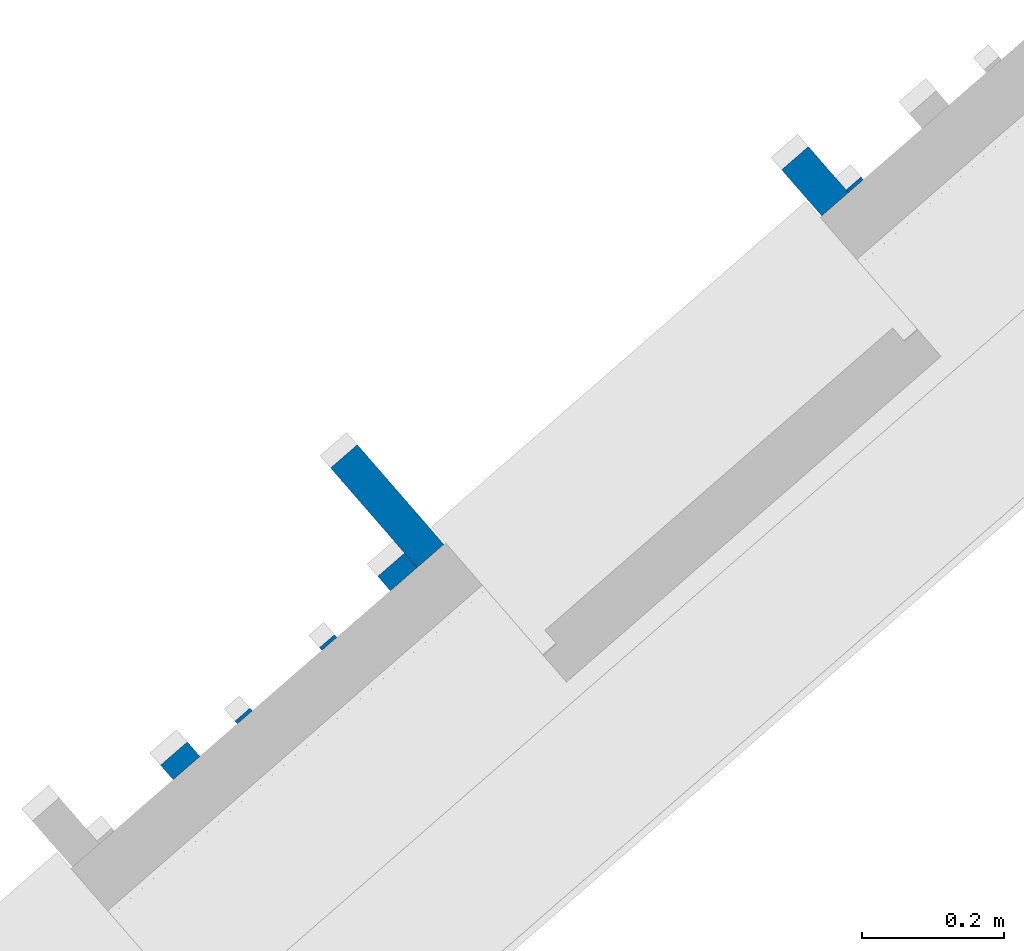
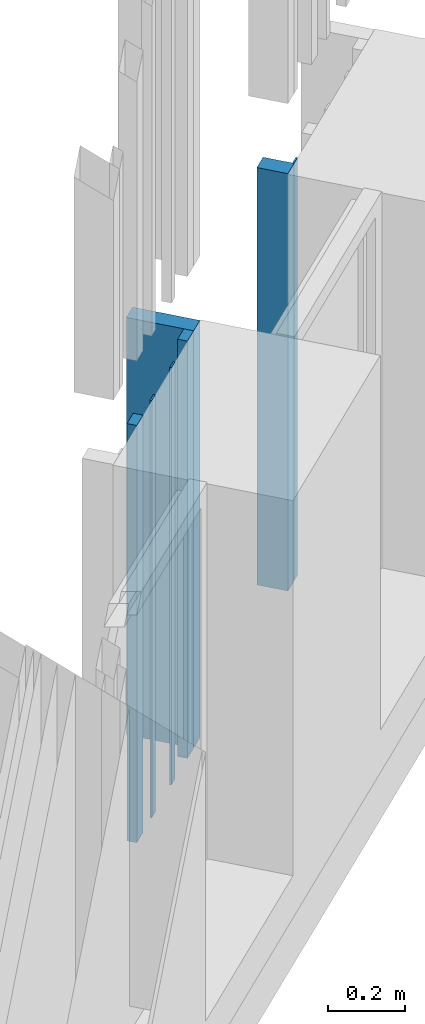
# One storey, part 242 of 390: 7 walls.
"""IFC2X3 building model written with IfcOpenShell, lengths in millimetres."""

from ifc_helpers import new_model, entity, si_unit, converted_unit, derived_unit, money_unit, direction, frame, origin_with_axes, place, context, subcontext, project, spatial, faceted_brep, material, type_object, element, save


model = new_model("IFC2X3")

# Units and contexts
model_context = context("Model", 3, precision=1e-05, world=origin_with_axes(), true_north=direction((0.0, 1.0)))
body_context = subcontext(model_context, "Body", "Model", "MODEL_VIEW")
ifc_project = project(units=[si_unit("LENGTHUNIT", "METRE", prefix="MILLI"), si_unit("AREAUNIT", "SQUARE_METRE"), si_unit("VOLUMEUNIT", "CUBIC_METRE"), converted_unit("PLANEANGLEUNIT", "DEGREE", entity("IfcPlaneAngleMeasure", 0.0174532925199), si_unit("PLANEANGLEUNIT", "RADIAN"), dimensions=[0, 0, 0, 0, 0, 0, 0]), si_unit("SOLIDANGLEUNIT", "STERADIAN"), money_unit("EUR"), converted_unit("TIMEUNIT", "Year", entity("IfcTimeMeasure", 31556926.0), si_unit("TIMEUNIT", "SECOND"), dimensions=[0, 0, 1, 0, 0, 0, 0]), si_unit("MASSUNIT", "GRAM", prefix="KILO"), si_unit("THERMODYNAMICTEMPERATUREUNIT", "DEGREE_CELSIUS"), si_unit("LUMINOUSINTENSITYUNIT", "LUMEN"), si_unit("ENERGYUNIT", "JOULE", prefix="MEGA"), derived_unit("THERMALCONDUCTANCEUNIT", [(si_unit("POWERUNIT", "WATT"), 1), (si_unit("LENGTHUNIT", "METRE"), -1), (si_unit("THERMODYNAMICTEMPERATUREUNIT", "KELVIN"), -1)]), derived_unit("SPECIFICHEATCAPACITYUNIT", [(si_unit("ENERGYUNIT", "JOULE"), 1), (si_unit("MASSUNIT", "GRAM", prefix="KILO"), -1), (si_unit("THERMODYNAMICTEMPERATUREUNIT", "KELVIN"), -1)]), derived_unit("MASSDENSITYUNIT", [(si_unit("MASSUNIT", "GRAM", prefix="KILO"), 1), (si_unit("VOLUMEUNIT", "CUBIC_METRE"), -1)])], contexts=[model_context])

# Site, building, storey
site_placement = place(None, origin_with_axes())
site = spatial("IfcSite", under=ifc_project, at=site_placement, Name="Site", CompositionType="ELEMENT")
building_placement = place(site_placement, origin_with_axes())
building = spatial("IfcBuilding", under=site, at=building_placement, Name="Building", CompositionType="ELEMENT")
storey_placement = place(building_placement, origin_with_axes())
storey = spatial("IfcBuildingStorey", under=building, at=storey_placement, Name="1 korrus", CompositionType="ELEMENT", Elevation=0.0)

# Walls
ifc_material = material(Name="Site specified")
wall_type = type_object("IfcWallType", Name="Puitfassaadi ribistik", PredefinedType="NOTDEFINED")
wall_1_placement = place(storey_placement, frame((143441.365928, 94683.0424022, 0.0), z_axis=(0.0, 0.0, 1.0), x_axis=(0.754709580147, 0.656059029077, 0.0)))
element("IfcWall", 1, at=wall_1_placement, inside=storey, type_object=wall_type, material=ifc_material, Name="Site specified", context=body_context, shape_type="Brep", body=[
    faceted_brep([(-14.0, 14.0, 1330.0), (-14.0, 8.98074044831, 1330.0), (14.0000000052, 8.98067413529, 1330.0), (14.0, 14.0, 1330.0), (-14.0, 14.0, 0.0), (-14.0, 8.97851596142, 0.0), (14.0, 8.97845256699, 0.0), (14.0, 14.0, 0.0)], [[[0, 1, 2, 3]], [[4, 5, 1, 0]], [[5, 6, 2, 1]], [[3, 2, 6, 7]], [[0, 3, 7, 4]], [[7, 6, 5, 4]]]),
])
wall_2_placement = place(storey_placement, frame((143232.641821, 94516.1764468, 0.0), z_axis=(0.0, 0.0, 1.0), x_axis=(0.754709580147, 0.656059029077, 0.0)))
element("IfcWall", 2, at=wall_2_placement, inside=storey, type_object=wall_type, material=ifc_material, Name="Site specified", context=body_context, shape_type="Brep", body=[
    faceted_brep([(-25.0, 25.0, 1330.0), (-25.0, -2.01860116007, 1330.0), (25.0000000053, -2.01871957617, 1330.0), (25.0, 25.0, 1330.0), (-25.0, 25.0, 0.0), (-25.0, -2.02085462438, 0.0), (25.0, -2.0209678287, 0.0), (25.0, 25.0, 0.0)], [[[0, 1, 2, 3]], [[4, 5, 1, 0]], [[5, 6, 2, 1]], [[3, 2, 6, 7]], [[0, 3, 7, 4]], [[7, 6, 5, 4]]]),
])
wall_3_placement = place(storey_placement, frame((143539.05391, 94782.5364126, 0.0), z_axis=(0.0, 0.0, 1.0), x_axis=(0.754709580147, 0.656059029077, 0.0)))
element("IfcWall", 3, at=wall_3_placement, inside=storey, type_object=wall_type, material=ifc_material, Name="Site specified", context=body_context, shape_type="Brep", body=[
    faceted_brep([(-25.0, 25.0, 1330.0), (-25.0, -2.01956269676, 1330.0), (25.0000000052, -2.01968111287, 1330.0), (25.0, 25.0, 1330.0), (-25.0, 25.0, 0.0), (-25.0, -2.02177384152, 0.0), (25.0, -2.02188704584, 0.0), (25.0, 25.0, 0.0)], [[[0, 1, 2, 3]], [[4, 5, 1, 0]], [[5, 6, 2, 1]], [[3, 2, 6, 7]], [[0, 3, 7, 4]], [[7, 6, 5, 4]]]),
])
wall_4_placement = place(storey_placement, frame((143322.121814, 94579.3850756, 0.0), z_axis=(0.0, 0.0, 1.0), x_axis=(0.754709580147, 0.656059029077, 0.0)))
element("IfcWall", 4, at=wall_4_placement, inside=storey, type_object=wall_type, material=ifc_material, Name="Site specified", context=body_context, shape_type="Brep", body=[
    faceted_brep([(-14.0, 14.0, 1330.0), (-14.0, 8.98111464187, 1330.0), (14.0000000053, 8.98104832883, 1330.0), (14.0, 14.0, 1330.0), (-14.0, 14.0, 0.0), (-14.0000000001, 8.97887368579, 0.0), (14.0, 8.97881029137, 0.0), (14.0, 14.0, 0.0)], [[[0, 1, 2, 3]], [[4, 5, 1, 0]], [[5, 6, 2, 1]], [[3, 2, 6, 7]], [[0, 3, 7, 4]], [[7, 6, 5, 4]]]),
])
wall_5_placement = place(storey_placement, frame((143524.632696, 94875.3387757, 0.0), z_axis=(0.0, 0.0, 1.0), x_axis=(0.754709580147, 0.656059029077, 0.0)))
element("IfcWall", 5, at=wall_5_placement, inside=storey, type_object=wall_type, material=ifc_material, Name="Site specified", context=body_context, shape_type="Brep", body=[
    faceted_brep([(-25.0, 104.5, 1330.0), (-25.0, -81.5196811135, 1330.0), (25.0000000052, -81.5197995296, 1330.0), (25.0, 104.5, 1330.0), (-25.0, 104.5, 0.0), (-25.0, -81.5218870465, 0.0), (25.0, -81.5220002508, 0.0), (25.0, 104.5, 0.0)], [[[0, 1, 2, 3]], [[4, 5, 1, 0]], [[5, 6, 2, 1]], [[3, 2, 6, 7]], [[0, 3, 7, 4]], [[7, 6, 5, 4]]]),
])
wall_6_placement = place(storey_placement, frame((144184.0004, 95328.6047001, 0.0), z_axis=(0.0, 0.0, 1.0), x_axis=(0.754709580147, 0.656059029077, 0.0)))
element("IfcWall", 6, at=wall_6_placement, inside=storey, type_object=wall_type, material=ifc_material, Name="Site specified", context=body_context, shape_type="Brep", body=[
    faceted_brep([(-14.0, 14.0, 1330.0), (-14.0, 8.97841000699, 1330.0), (14.000000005, 8.97834369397, 1330.0), (14.0, 14.0, 1330.0), (-14.0, 14.0, 0.0), (-14.0, 8.97628808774, 0.0), (14.0, 8.97622469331, 0.0), (14.0, 14.0, 0.0)], [[[0, 1, 2, 3]], [[4, 5, 1, 0]], [[5, 6, 2, 1]], [[3, 2, 6, 7]], [[0, 3, 7, 4]], [[7, 6, 5, 4]]]),
])
wall_7_placement = place(storey_placement, frame((144127.996336, 95333.5841359, 0.0), z_axis=(0.0, 0.0, 1.0), x_axis=(0.754709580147, 0.656059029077, 0.0)))
element("IfcWall", 7, at=wall_7_placement, inside=storey, type_object=wall_type, material=ifc_material, Name="Site specified", context=body_context, shape_type="Brep", body=[
    faceted_brep([(-25.0, 54.5, 1330.0), (-25.0, -31.521471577, 1330.0), (25.000000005, -31.5215899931, 1330.0), (25.0, 54.5, 1330.0), (-25.0, 54.5, 0.0), (-25.0, -31.523598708, 0.0), (25.0, -31.5237119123, 0.0), (25.0, 54.5, 0.0)], [[[0, 1, 2, 3]], [[4, 5, 1, 0]], [[5, 6, 2, 1]], [[3, 2, 6, 7]], [[0, 3, 7, 4]], [[7, 6, 5, 4]]]),
])

save(model, "model.ifc")
